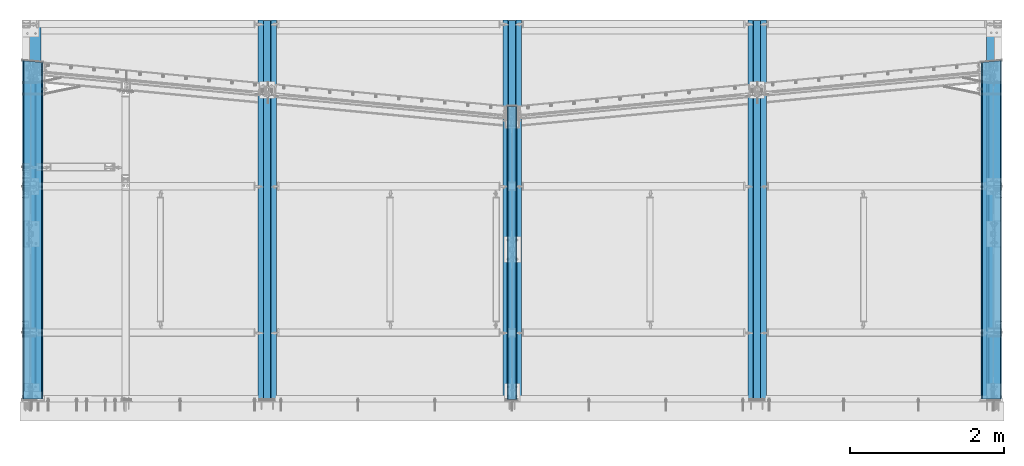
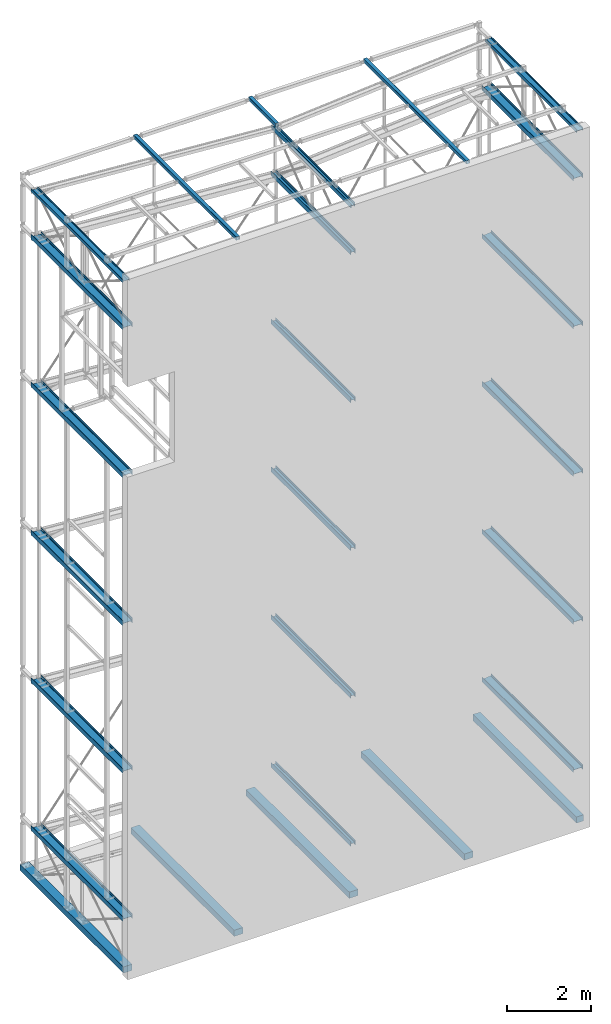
# One storey, part 1 of 271: 26 columns, 25 elements without a shape of their own.
"""IFC2X3 building model written with IfcOpenShell, lengths in millimetres."""

import ifcopenshell
import ifcopenshell.guid

model = None  # the IFC model being written
_history = None  # IfcOwnerHistory: only IFC2X3 demands one
_inside = {}  # id of a spatial element -> (the spatial element, [elements in it])
_under = {}  # id of a project, library or spatial element -> (it, [spatial elements below it])
_declared = {}  # id of a project -> (the project, [libraries it declares])
_typed = {}  # id of a type object -> (the type object, [elements of that type])
_made_of = {}  # id of a material, layer set ... -> (it, [elements and type objects made of it])


def new_model(schema):
    """Start an empty IFC model of exactly this schema.

    Asked for "IFC4X3", IfcOpenShell would pick the latest addendum, in which some entities
    have other attributes; the version numbers below select the first issue.
    IFC2X3 requires an IfcOwnerHistory on every rooted entity: one is made here for all.
    """
    global model, _history
    if schema == "IFC4X3":
        model = ifcopenshell.file(schema_version=(4, 3, 0, 0))
    else:
        model = ifcopenshell.file(schema=schema)
    _inside.clear()
    _under.clear()
    _declared.clear()
    _typed.clear()
    _made_of.clear()
    _history = None
    if model.schema == "IFC2X3":
        org = make("IfcOrganization", Name="unknown")
        user = make(
            "IfcPersonAndOrganization",
            ThePerson=make("IfcPerson", FamilyName="unknown"),
            TheOrganization=org,
        )
        app = make(
            "IfcApplication",
            ApplicationDeveloper=org,
            Version="unknown",
            ApplicationFullName="unknown",
            ApplicationIdentifier="unknown",
        )
        _history = make(
            "IfcOwnerHistory",
            OwningUser=user,
            OwningApplication=app,
            ChangeAction="ADDED",
            CreationDate=0,
        )
    return model


def make(cls, **values):
    """One entity of the class cls with the attributes given. An attribute that is None is left unset."""
    return model.create_entity(
        cls, **{name: value for name, value in values.items() if value is not None}
    )


def rooted(cls, **values):
    """An entity with a GlobalId (a new one), such as an element, a storey or a relation."""
    return make(cls, GlobalId=ifcopenshell.guid.new(), OwnerHistory=_history, **values)


def si_unit(unit_type, name, prefix=None):
    """IfcSIUnit, for example si_unit("LENGTHUNIT", "METRE", prefix="MILLI")."""
    return make("IfcSIUnit", UnitType=unit_type, Prefix=prefix, Name=name)


def assignment(units):
    """IfcUnitAssignment: the units of a project."""
    return None if units is None else make("IfcUnitAssignment", Units=units)


def point(xyz):
    """IfcCartesianPoint."""
    return None if xyz is None else make("IfcCartesianPoint", Coordinates=xyz)


def direction(xyz):
    """IfcDirection."""
    return None if xyz is None else make("IfcDirection", DirectionRatios=xyz)


def frame(location, z_axis=None, x_axis=None):
    """IfcAxis2Placement3D, a coordinate frame: its origin and axes. An axis left out is left unset."""
    return make(
        "IfcAxis2Placement3D",
        Location=point(location),
        Axis=direction(z_axis),
        RefDirection=direction(x_axis),
    )


def frame_2d(location, x_axis=None):
    """IfcAxis2Placement2D, a coordinate frame in the plane: its origin and x axis."""
    return make(
        "IfcAxis2Placement2D", Location=point(location), RefDirection=direction(x_axis)
    )


def origin_with_axes():
    """The frame at (0, 0, 0) with the z axis (0, 0, 1) and the x axis (1, 0, 0) written out."""
    return frame((0.0, 0.0, 0.0), z_axis=(0.0, 0.0, 1.0), x_axis=(1.0, 0.0, 0.0))


def origin_2d_with_axis():
    """The frame at (0, 0) in the plane with the x axis (1, 0) written out."""
    return frame_2d((0.0, 0.0), x_axis=(1.0, 0.0))


def place(relative_to, where):
    """IfcLocalPlacement: puts the frame where relative to a parent placement (None: the world)."""
    return make(
        "IfcLocalPlacement", PlacementRelTo=relative_to, RelativePlacement=where
    )


def context(
    kind, dimensions, precision=None, world=None, true_north=None, identifier=None
):
    """IfcGeometricRepresentationContext, for example the 3D "Model" context."""
    return make(
        "IfcGeometricRepresentationContext",
        ContextIdentifier=identifier,
        ContextType=kind,
        CoordinateSpaceDimension=dimensions,
        Precision=precision,
        WorldCoordinateSystem=world,
        TrueNorth=true_north,
    )


def subcontext(parent, identifier, kind, view, scale=None):
    """IfcGeometricRepresentationSubContext, for example "Body" below "Model"."""
    return make(
        "IfcGeometricRepresentationSubContext",
        ContextIdentifier=identifier,
        ContextType=kind,
        ParentContext=parent,
        TargetScale=scale,
        TargetView=view,
    )


def project(units=None, contexts=None):
    """IfcProject with its units and contexts."""
    return rooted(
        "IfcProject",
        Name="project",
        RepresentationContexts=contexts,
        UnitsInContext=assignment(units),
    )


def spatial(cls, under=None, at=None, **own):
    """A site, building, storey or space (cls), placed at a placement, below another one or the project."""
    s = rooted(cls, ObjectPlacement=at, **own)
    if under is not None:
        _under.setdefault(under.id(), (under, []))[1].append(s)
    return s


def profile(cls, at=None, kind="AREA", **sizes):
    """A parametric profile (cls). Its sizes go by their IFC names, for example OverallWidth=200.0."""
    return make(cls, ProfileType=kind, Position=at, **sizes)


def rectangle(**sizes):
    """IfcRectangleProfileDef."""
    return profile("IfcRectangleProfileDef", **sizes)


def hollow_rectangle(**sizes):
    """IfcRectangleHollowProfileDef."""
    return profile("IfcRectangleHollowProfileDef", **sizes)


def i_section(**sizes):
    """IfcIShapeProfileDef."""
    return profile("IfcIShapeProfileDef", **sizes)


def extrude(swept, where, along, depth):
    """IfcExtrudedAreaSolid: the profile swept, set in the frame where, extruded along a direction by depth."""
    return make(
        "IfcExtrudedAreaSolid",
        SweptArea=swept,
        Position=where,
        ExtrudedDirection=direction(along),
        Depth=depth,
    )


def clip(a, b, op="DIFFERENCE"):
    """IfcBooleanClippingResult: the solid a cut by the half space b."""
    return make(
        "IfcBooleanClippingResult", Operator=op, FirstOperand=a, SecondOperand=b
    )


def halfspace(plane, agree):
    """IfcHalfSpaceSolid: all space on one side of the plane z = 0 of the frame plane."""
    return make(
        "IfcHalfSpaceSolid",
        BaseSurface=make("IfcPlane", Position=plane),
        AgreementFlag=agree,
    )


def shape(context_of_items, identifier, shape_type, items):
    """IfcShapeRepresentation: the items that make up one representation, for example the "Body"."""
    return make(
        "IfcShapeRepresentation",
        ContextOfItems=context_of_items,
        RepresentationIdentifier=identifier,
        RepresentationType=shape_type,
        Items=items,
    )


def material(Name=None, Category=None):
    """IfcMaterial."""
    return make("IfcMaterial", Name=Name, Category=Category)


def made_of(thing, what):
    """Note that an element or type object is made of a material, layer set ...; save() writes the relation."""
    if what is not None:
        _made_of.setdefault(what.id(), (what, []))[1].append(thing)
    return thing


def type_object(cls, material=None, **own):
    """A type object (cls), such as IfcWallType, which elements share."""
    return made_of(rooted(cls, **own), material)


def element(
    cls,
    number,
    at=None,
    inside=None,
    cuts=None,
    type_object=None,
    material=None,
    context=None,
    identifier="Body",
    shape_type=None,
    held_by="IfcProductDefinitionShape",
    body=None,
    shapes=None,
    **own,
):
    """One element of the class cls, such as IfcWall. Its Tag is "e" and its number.

    at: its placement. inside: the storey or other place that contains it. cuts: it is an
    opening in that element (IfcRelVoidsElement). A single representation is given by context,
    identifier, shape_type and body (its items); several are given by shapes. held_by: the class
    of the entity that holds the representations. save() writes the other relations.
    """
    e = rooted(cls, Tag="e%d" % number, ObjectPlacement=at, **own)
    if body is not None:
        shapes = [shape(context, identifier, shape_type, body)]
    if shapes is not None:
        e.Representation = make(held_by, Representations=shapes)
    if inside is not None:
        _inside.setdefault(inside.id(), (inside, []))[1].append(e)
    if cuts is not None:
        rooted(
            "IfcRelVoidsElement", RelatingBuildingElement=cuts, RelatedOpeningElement=e
        )
    if type_object is not None:
        _typed.setdefault(type_object.id(), (type_object, []))[1].append(e)
    return made_of(e, material)


def aggregate(whole, parts):
    """IfcRelAggregates: a whole, such as a stair, and the parts it consists of."""
    return rooted("IfcRelAggregates", RelatingObject=whole, RelatedObjects=parts)


def save(model, path):
    """Write the relations noted so far, then the file.

    IfcRelAggregates (storeys below a building ...), IfcRelContainedInSpatialStructure (elements
    in a storey), IfcRelDefinesByType, IfcRelAssociatesMaterial and IfcRelDeclares: one each for
    every whole, place, type object, material and project.
    """
    for whole, parts in _under.values():
        aggregate(whole, parts)
    for where, things in _inside.values():
        rooted(
            "IfcRelContainedInSpatialStructure",
            RelatedElements=things,
            RelatingStructure=where,
        )
    for kind, things in _typed.values():
        rooted("IfcRelDefinesByType", RelatedObjects=things, RelatingType=kind)
    for what, things in _made_of.values():
        rooted("IfcRelAssociatesMaterial", RelatedObjects=things, RelatingMaterial=what)
    for by, libraries in _declared.values():
        rooted("IfcRelDeclares", RelatingContext=by, RelatedDefinitions=libraries)
    model.write(path)


model = new_model("IFC2X3")

# Units and contexts
model_context = context("Model", 3, precision=1e-05, world=origin_with_axes())
body_context = subcontext(model_context, "Body", "Model", "MODEL_VIEW")
ifc_project = project(units=[si_unit("LENGTHUNIT", "METRE", prefix="MILLI"), si_unit("AREAUNIT", "SQUARE_METRE"), si_unit("VOLUMEUNIT", "CUBIC_METRE"), si_unit("MASSUNIT", "GRAM", prefix="KILO"), si_unit("TIMEUNIT", "SECOND"), si_unit("PLANEANGLEUNIT", "RADIAN"), si_unit("SOLIDANGLEUNIT", "STERADIAN"), si_unit("THERMODYNAMICTEMPERATUREUNIT", "DEGREE_CELSIUS"), si_unit("LUMINOUSINTENSITYUNIT", "LUMEN")], contexts=[model_context])

# Site, building, storey
site_placement = place(None, origin_with_axes())
site = spatial("IfcSite", under=ifc_project, at=site_placement, Name="Undefined", CompositionType="ELEMENT")
building_placement = place(site_placement, origin_with_axes())
building = spatial("IfcBuilding", under=site, at=building_placement, Name="Undefined", CompositionType="ELEMENT")
storey_placement = place(building_placement, origin_with_axes())
storey = spatial("IfcBuildingStorey", under=building, at=storey_placement, Name="Undefined", CompositionType="ELEMENT", Elevation=0.0)

# Assembly, column
assembly_1_placement = place(storey_placement, origin_with_axes())
assembly_1 = element("IfcElementAssembly", 1, at=assembly_1_placement, inside=storey, AssemblyPlace="NOTDEFINED", PredefinedType="REINFORCEMENT_UNIT")
ifc_material_1 = material(Name="CONCRETE/C25/30")
column_type_1 = type_object("IfcColumnType", Name="180*200", PredefinedType="NOTDEFINED")
column_1_placement = place(assembly_1_placement, frame((12608.3756870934, 9.32498425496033, -105.650000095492), z_axis=(0.0, 1.0, 0.0), x_axis=(0.0, 0.0, 1.0)))
column_1 = element("IfcColumn", 2, at=column_1_placement, type_object=column_type_1, material=ifc_material_1, Name="SŁUP", ObjectType="180*200", context=body_context, shape_type="SweptSolid", body=[
    extrude(rectangle(XDim=200.0, YDim=180.0, at=origin_2d_with_axis()), frame((0.0, 0.0, 4950.0), z_axis=(0.0, 0.0, -1.0), x_axis=(0.0, 1.0, 0.0)), (0.0, 0.0, 1.0), 4950.0),
])
aggregate(assembly_1, [column_1])

assembly_2_placement = place(storey_placement, origin_with_axes())
assembly_2 = element("IfcElementAssembly", 3, at=assembly_2_placement, inside=storey, AssemblyPlace="NOTDEFINED", PredefinedType="REINFORCEMENT_UNIT")
column_type_2 = type_object("IfcColumnType", Name="180*240", PredefinedType="NOTDEFINED")
column_2_placement = place(assembly_2_placement, frame((108.375687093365, 9.32498425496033, -105.650000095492), z_axis=(0.0, 1.0, 0.0), x_axis=(0.0, 0.0, 1.0)))
column_2 = element("IfcColumn", 4, at=column_2_placement, type_object=column_type_2, material=ifc_material_1, Name="SŁUP", ObjectType="180*240", context=body_context, shape_type="SweptSolid", body=[
    extrude(rectangle(XDim=240.0, YDim=180.0, at=origin_2d_with_axis()), frame((0.0, 0.0, 4950.0), z_axis=(0.0, 0.0, -1.0), x_axis=(0.0, 1.0, 0.0)), (0.0, 0.0, 1.0), 4950.0),
])
aggregate(assembly_2, [column_2])

assembly_3_placement = place(storey_placement, origin_with_axes())
assembly_3 = element("IfcElementAssembly", 5, at=assembly_3_placement, inside=storey, AssemblyPlace="NOTDEFINED", PredefinedType="REINFORCEMENT_UNIT")
column_3_placement = place(assembly_3_placement, frame((3171.37568709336, 9.32498425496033, -105.650000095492), z_axis=(0.0, 1.0, 0.0), x_axis=(0.0, 0.0, 1.0)))
column_3 = element("IfcColumn", 6, at=column_3_placement, type_object=column_type_2, material=ifc_material_1, Name="SŁUP", ObjectType="180*240", context=body_context, shape_type="SweptSolid", body=[
    extrude(rectangle(XDim=240.0, YDim=180.0, at=origin_2d_with_axis()), frame((0.0, 0.0, 4950.0), z_axis=(0.0, 0.0, -1.0), x_axis=(0.0, 1.0, 0.0)), (0.0, 0.0, 1.0), 4950.0),
])
aggregate(assembly_3, [column_3])

assembly_4_placement = place(storey_placement, origin_with_axes())
assembly_4 = element("IfcElementAssembly", 7, at=assembly_4_placement, inside=storey, AssemblyPlace="NOTDEFINED", PredefinedType="REINFORCEMENT_UNIT")
column_4_placement = place(assembly_4_placement, frame((6351.37568709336, 9.32498425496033, -105.650000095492), z_axis=(0.0, 1.0, 0.0), x_axis=(0.0, 0.0, 1.0)))
column_4 = element("IfcColumn", 8, at=column_4_placement, type_object=column_type_2, material=ifc_material_1, Name="SŁUP", ObjectType="180*240", context=body_context, shape_type="SweptSolid", body=[
    extrude(rectangle(XDim=240.0, YDim=180.0, at=origin_2d_with_axis()), frame((0.0, 0.0, 4950.0), z_axis=(0.0, 0.0, -1.0), x_axis=(0.0, 1.0, 0.0)), (0.0, 0.0, 1.0), 4950.0),
])
aggregate(assembly_4, [column_4])

assembly_5_placement = place(storey_placement, origin_with_axes())
assembly_5 = element("IfcElementAssembly", 9, at=assembly_5_placement, inside=storey, AssemblyPlace="NOTDEFINED", PredefinedType="REINFORCEMENT_UNIT")
column_5_placement = place(assembly_5_placement, frame((9531.37568709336, 9.32498425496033, -105.650000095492), z_axis=(0.0, 1.0, 0.0), x_axis=(0.0, 0.0, 1.0)))
column_5 = element("IfcColumn", 10, at=column_5_placement, type_object=column_type_2, material=ifc_material_1, Name="SŁUP", ObjectType="180*240", context=body_context, shape_type="SweptSolid", body=[
    extrude(rectangle(XDim=240.0, YDim=180.0, at=origin_2d_with_axis()), frame((0.0, 0.0, 4950.0), z_axis=(0.0, 0.0, -1.0), x_axis=(0.0, 1.0, 0.0)), (0.0, 0.0, 1.0), 4950.0),
])
aggregate(assembly_5, [column_5])

assembly_6_placement = place(storey_placement, origin_with_axes())
assembly_6 = element("IfcElementAssembly", 11, at=assembly_6_placement, inside=storey, AssemblyPlace="NOTDEFINED", PredefinedType="RIGID_FRAME")
ifc_material_2 = material(Name="STEEL/S355JR")
column_type_3 = type_object("IfcColumnType", Name="SHS100*3", PredefinedType="NOTDEFINED")
column_6_placement = place(assembly_6_placement, frame((6348.37568736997, 3665.32498425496, 20154.3499999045), z_axis=(0.0, 1.0, 0.0), x_axis=(1.0, 0.0, 0.0)))
column_6 = element("IfcColumn", 12, at=column_6_placement, type_object=column_type_3, material=ifc_material_2, Name="SŁUPEK", ObjectType="SHS100*3", context=body_context, shape_type="Clipping", body=[
    clip(extrude(hollow_rectangle(XDim=100.0, YDim=100.0, WallThickness=3.0, InnerFilletRadius=3.0, OuterFilletRadius=6.0, at=origin_2d_with_axis()), frame((0.0, 0.0, 1294.0), z_axis=(0.0, 0.0, -1.0), x_axis=(0.0, 1.0, 0.0)), (0.0, 0.0, 1.0), 1294.0), halfspace(frame((-50.0000000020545, 0.0, 1290.0), z_axis=(0.0, 0.0, -1.0), x_axis=(0.0, -1.0, 0.0)), True)),
])

assembly_7_placement = place(storey_placement, origin_with_axes())
assembly_7 = element("IfcElementAssembly", 13, at=assembly_7_placement, inside=storey, AssemblyPlace="NOTDEFINED", PredefinedType="RIGID_FRAME")
column_7_placement = place(assembly_7_placement, frame((9528.37568709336, -0.675015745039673, 20154.3499999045), z_axis=(0.0, 1.0, 0.0), x_axis=(1.0, 0.0, 0.0)))
column_7 = element("IfcColumn", 14, at=column_7_placement, type_object=column_type_3, material=ifc_material_2, Name="SŁUP", ObjectType="SHS100*3", context=body_context, shape_type="Clipping", body=[
    clip(clip(extrude(hollow_rectangle(XDim=100.0, YDim=100.0, WallThickness=3.0, InnerFilletRadius=3.0, OuterFilletRadius=6.0, at=origin_2d_with_axis()), frame((0.0, 0.0, 4960.0), z_axis=(0.0, 0.0, -1.0), x_axis=(0.0, 1.0, 0.0)), (0.0, 0.0, 1.0), 4960.0), halfspace(frame((-50.0, 0.0, 4956.0), z_axis=(0.0, 0.0, -1.0), x_axis=(0.0, -1.0, 0.0)), True)), halfspace(frame((50.0, 0.0, 32.0), z_axis=(0.0, 0.0, 1.0), x_axis=(0.0, -1.0, 0.0)), True)),
])
aggregate(assembly_7, [column_7])

assembly_8_placement = place(storey_placement, origin_with_axes())
assembly_8 = element("IfcElementAssembly", 15, at=assembly_8_placement, inside=storey, AssemblyPlace="NOTDEFINED", PredefinedType="RIGID_FRAME")
column_8_placement = place(assembly_8_placement, frame((3168.37568709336, -0.675015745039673, 20154.3499999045), z_axis=(0.0, 1.0, 0.0), x_axis=(1.0, 0.0, 0.0)))
column_8 = element("IfcColumn", 16, at=column_8_placement, type_object=column_type_3, material=ifc_material_2, Name="SŁUP", ObjectType="SHS100*3", context=body_context, shape_type="Clipping", body=[
    clip(clip(extrude(hollow_rectangle(XDim=100.0, YDim=100.0, WallThickness=3.0, InnerFilletRadius=3.0, OuterFilletRadius=6.0, at=origin_2d_with_axis()), frame((0.0, 0.0, 4960.0), z_axis=(0.0, 0.0, -1.0), x_axis=(0.0, 1.0, 0.0)), (0.0, 0.0, 1.0), 4960.0), halfspace(frame((-50.0, 0.0, 4956.0), z_axis=(0.0, 0.0, -1.0), x_axis=(0.0, -1.0, 0.0)), True)), halfspace(frame((50.0, 0.0, 32.0), z_axis=(0.0, 0.0, 1.0), x_axis=(0.0, -1.0, 0.0)), True)),
])
aggregate(assembly_8, [column_8])

# Column
column_type_4 = type_object("IfcColumnType", Name="HEA120", PredefinedType="NOTDEFINED")
column_9_placement = place(assembly_6_placement, frame((6348.37568709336, -0.675015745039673, 20004.3499999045), z_axis=(0.0, 1.0, 0.0), x_axis=(1.0, 0.0, 0.0)))
column_9 = element("IfcColumn", 17, at=column_9_placement, type_object=column_type_4, material=ifc_material_2, Name="SŁUP", ObjectType="HEA120", context=body_context, shape_type="Clipping", body=[
    clip(clip(extrude(i_section(OverallWidth=120.0, OverallDepth=114.0, WebThickness=5.0, FlangeThickness=8.0, FilletRadius=12.0, at=origin_2d_with_axis()), frame((0.0, 0.0, 3850.0), z_axis=(0.0, 0.0, -1.0), x_axis=(0.0, 1.0, 0.0)), (0.0, 0.0, 1.0), 3850.0), halfspace(frame((57.0, 0.0, 3840.57618987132), z_axis=(0.0, 0.0, -1.0), x_axis=(0.0, 1.0, 0.0)), True)), halfspace(frame((-57.0, 0.0, 32.0), z_axis=(0.0, 0.0, 1.0), x_axis=(0.0, 1.0, 0.0)), True)),
])

aggregate(assembly_6, [column_6, column_9])

# Assembly, column
assembly_9_placement = place(storey_placement, origin_with_axes())
assembly_9 = element("IfcElementAssembly", 18, at=assembly_9_placement, inside=storey, AssemblyPlace="NOTDEFINED", PredefinedType="RIGID_FRAME")
column_type_5 = type_object("IfcColumnType", Name="IPE180", PredefinedType="NOTDEFINED")
column_10_placement = place(assembly_9_placement, frame((78.3756870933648, -0.675015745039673, 20004.3499999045), z_axis=(0.0, 1.0, 0.0), x_axis=(1.0, 0.0, 0.0)))
column_10 = element("IfcColumn", 19, at=column_10_placement, type_object=column_type_5, material=ifc_material_2, Name="SŁUP", ObjectType="IPE180", context=body_context, shape_type="Clipping", body=[
    clip(clip(extrude(i_section(OverallWidth=91.0, OverallDepth=180.0, WebThickness=5.300000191, FlangeThickness=8.0, FilletRadius=9.0, at=origin_2d_with_axis()), frame((0.0, 0.0, 4450.0), z_axis=(0.0, 0.0, -1.0), x_axis=(0.0, 1.0, 0.0)), (0.0, 0.0, 1.0), 4450.0), halfspace(frame((-89.9999999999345, 0.0, 4435.17219302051), z_axis=(-0.0939225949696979, 0.0, -0.995579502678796), x_axis=(0.0, -1.0, 0.0)), True)), halfspace(frame((-90.0, 0.0, 32.0), z_axis=(0.0, 0.0, 1.0), x_axis=(0.0, 1.0, 0.0)), True)),
])
aggregate(assembly_9, [column_10])

assembly_10_placement = place(storey_placement, origin_with_axes())
assembly_10 = element("IfcElementAssembly", 20, at=assembly_10_placement, inside=storey, AssemblyPlace="NOTDEFINED", PredefinedType="RIGID_FRAME")
column_11_placement = place(assembly_10_placement, frame((12618.3756870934, -0.675015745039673, 20004.3499999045), z_axis=(0.0, 1.0, 0.0), x_axis=(1.0, 0.0, 0.0)))
column_11 = element("IfcColumn", 21, at=column_11_placement, type_object=column_type_5, material=ifc_material_2, Name="SŁUP", ObjectType="IPE180", context=body_context, shape_type="Clipping", body=[
    clip(clip(extrude(i_section(OverallWidth=91.0, OverallDepth=180.0, WebThickness=5.300000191, FlangeThickness=8.0, FilletRadius=9.0, at=origin_2d_with_axis()), frame((0.0, 0.0, 4450.0), z_axis=(0.0, 0.0, -1.0), x_axis=(0.0, 1.0, 0.0)), (0.0, 0.0, 1.0), 4450.0), halfspace(frame((90.0, 0.0, 4435.17219296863), z_axis=(0.0939225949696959, 0.0, -0.995579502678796), x_axis=(0.0, 1.0, 0.0)), True)), halfspace(frame((-90.0, 0.0, 32.0), z_axis=(0.0, 0.0, 1.0), x_axis=(0.0, 1.0, 0.0)), True)),
])
aggregate(assembly_10, [column_11])

assembly_11_placement = place(storey_placement, origin_with_axes())
assembly_11 = element("IfcElementAssembly", 22, at=assembly_11_placement, inside=storey, AssemblyPlace="NOTDEFINED", PredefinedType="RIGID_FRAME")
column_type_6 = type_object("IfcColumnType", Name="HEA140", PredefinedType="NOTDEFINED")
column_12_placement = place(assembly_11_placement, frame((6348.37568709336, -0.675015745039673, 1364.34999990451), z_axis=(0.0, 1.0, 0.0), x_axis=(1.0, 0.0, 0.0)))
column_12 = element("IfcColumn", 23, at=column_12_placement, type_object=column_type_6, material=ifc_material_2, Name="SŁUP", ObjectType="HEA140", context=body_context, shape_type="Clipping", body=[
    clip(clip(extrude(i_section(OverallWidth=140.0, OverallDepth=133.0, WebThickness=5.5, FlangeThickness=8.5, FilletRadius=12.0, at=origin_2d_with_axis()), frame((0.0, 0.0, 3850.0), z_axis=(0.0, 0.0, -1.0), x_axis=(0.0, 1.0, 0.0)), (0.0, 0.0, 1.0), 3850.0), halfspace(frame((66.5, 0.0, 3839.47241629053), z_axis=(0.0, 0.0, -1.0), x_axis=(0.0, 1.0, 0.0)), True)), halfspace(frame((-66.5, 0.0, 32.0), z_axis=(0.0, 0.0, 1.0), x_axis=(0.0, 1.0, 0.0)), True)),
])
aggregate(assembly_11, [column_12])

assembly_12_placement = place(storey_placement, origin_with_axes())
assembly_12 = element("IfcElementAssembly", 24, at=assembly_12_placement, inside=storey, AssemblyPlace="NOTDEFINED", PredefinedType="RIGID_FRAME")
column_13_placement = place(assembly_12_placement, frame((6348.37568709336, -0.675015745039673, 5684.34999990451), z_axis=(0.0, 1.0, 0.0), x_axis=(1.0, 0.0, 0.0)))
column_13 = element("IfcColumn", 25, at=column_13_placement, type_object=column_type_6, material=ifc_material_2, Name="SŁUP", ObjectType="HEA140", context=body_context, shape_type="Clipping", body=[
    clip(clip(extrude(i_section(OverallWidth=140.0, OverallDepth=133.0, WebThickness=5.5, FlangeThickness=8.5, FilletRadius=12.0, at=origin_2d_with_axis()), frame((0.0, 0.0, 3850.0), z_axis=(0.0, 0.0, -1.0), x_axis=(0.0, 1.0, 0.0)), (0.0, 0.0, 1.0), 3850.0), halfspace(frame((66.5, 0.0, 3839.47241629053), z_axis=(0.0, 0.0, -1.0), x_axis=(0.0, 1.0, 0.0)), True)), halfspace(frame((-66.5, 0.0, 32.0), z_axis=(0.0, 0.0, 1.0), x_axis=(0.0, 1.0, 0.0)), True)),
])
aggregate(assembly_12, [column_13])

assembly_13_placement = place(storey_placement, origin_with_axes())
assembly_13 = element("IfcElementAssembly", 26, at=assembly_13_placement, inside=storey, AssemblyPlace="NOTDEFINED", PredefinedType="RIGID_FRAME")
column_14_placement = place(assembly_13_placement, frame((6348.37568709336, -0.675015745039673, 10004.3499999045), z_axis=(0.0, 1.0, 0.0), x_axis=(1.0, 0.0, 0.0)))
column_14 = element("IfcColumn", 27, at=column_14_placement, type_object=column_type_6, material=ifc_material_2, Name="SŁUP", ObjectType="HEA140", context=body_context, shape_type="Clipping", body=[
    clip(clip(extrude(i_section(OverallWidth=140.0, OverallDepth=133.0, WebThickness=5.5, FlangeThickness=8.5, FilletRadius=12.0, at=origin_2d_with_axis()), frame((0.0, 0.0, 3850.0), z_axis=(0.0, 0.0, -1.0), x_axis=(0.0, 1.0, 0.0)), (0.0, 0.0, 1.0), 3850.0), halfspace(frame((66.5, 0.0, 3839.47241629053), z_axis=(0.0, 0.0, -1.0), x_axis=(0.0, 1.0, 0.0)), True)), halfspace(frame((-66.5, 0.0, 32.0), z_axis=(0.0, 0.0, 1.0), x_axis=(0.0, 1.0, 0.0)), True)),
])
aggregate(assembly_13, [column_14])

assembly_14_placement = place(storey_placement, origin_with_axes())
assembly_14 = element("IfcElementAssembly", 28, at=assembly_14_placement, inside=storey, AssemblyPlace="NOTDEFINED", PredefinedType="RIGID_FRAME")
column_15_placement = place(assembly_14_placement, frame((6348.37568709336, -0.675015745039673, 14324.3499999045), z_axis=(0.0, 1.0, 0.0), x_axis=(1.0, 0.0, 0.0)))
column_15 = element("IfcColumn", 29, at=column_15_placement, type_object=column_type_6, material=ifc_material_2, Name="SŁUP", ObjectType="HEA140", context=body_context, shape_type="Clipping", body=[
    clip(clip(extrude(i_section(OverallWidth=140.0, OverallDepth=133.0, WebThickness=5.5, FlangeThickness=8.5, FilletRadius=12.0, at=origin_2d_with_axis()), frame((0.0, 0.0, 3850.0), z_axis=(0.0, 0.0, -1.0), x_axis=(0.0, 1.0, 0.0)), (0.0, 0.0, 1.0), 3850.0), halfspace(frame((66.5, 0.0, 3839.47241629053), z_axis=(0.0, 0.0, -1.0), x_axis=(0.0, 1.0, 0.0)), True)), halfspace(frame((-66.5, 0.0, 32.0), z_axis=(0.0, 0.0, 1.0), x_axis=(0.0, 1.0, 0.0)), True)),
])
aggregate(assembly_14, [column_15])

assembly_15_placement = place(storey_placement, origin_with_axes())
assembly_15 = element("IfcElementAssembly", 30, at=assembly_15_placement, inside=storey, AssemblyPlace="NOTDEFINED", PredefinedType="RIGID_FRAME")
column_16_placement = place(assembly_15_placement, frame((6348.37568709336, -0.675015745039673, 18644.3499999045), z_axis=(0.0, 1.0, 0.0), x_axis=(1.0, 0.0, 0.0)))
column_16 = element("IfcColumn", 31, at=column_16_placement, type_object=column_type_6, material=ifc_material_2, Name="SŁUP", ObjectType="HEA140", context=body_context, shape_type="Clipping", body=[
    clip(clip(extrude(i_section(OverallWidth=140.0, OverallDepth=133.0, WebThickness=5.5, FlangeThickness=8.5, FilletRadius=12.0, at=origin_2d_with_axis()), frame((0.0, 0.0, 3850.0), z_axis=(0.0, 0.0, -1.0), x_axis=(0.0, 1.0, 0.0)), (0.0, 0.0, 1.0), 3850.0), halfspace(frame((66.5, 0.0, 3839.47241629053), z_axis=(0.0, 0.0, -1.0), x_axis=(0.0, 1.0, 0.0)), True)), halfspace(frame((-66.5, 0.0, 32.0), z_axis=(0.0, 0.0, 1.0), x_axis=(0.0, 1.0, 0.0)), True)),
])
aggregate(assembly_15, [column_16])

assembly_16_placement = place(storey_placement, origin_with_axes())
assembly_16 = element("IfcElementAssembly", 32, at=assembly_16_placement, inside=storey, AssemblyPlace="NOTDEFINED", PredefinedType="RIGID_FRAME")
column_type_7 = type_object("IfcColumnType", Name="IPE270", PredefinedType="NOTDEFINED")
column_17_placement = place(assembly_16_placement, frame((12573.3756870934, -0.675015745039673, 1364.34999990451), z_axis=(0.0, 1.0, 0.0), x_axis=(1.0, 0.0, 0.0)))
column_17 = element("IfcColumn", 33, at=column_17_placement, type_object=column_type_7, material=ifc_material_2, Name="SŁUP", ObjectType="IPE270", context=body_context, shape_type="Clipping", body=[
    clip(clip(extrude(i_section(OverallWidth=135.0, OverallDepth=270.0, WebThickness=6.599999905, FlangeThickness=10.19999981, FilletRadius=15.0, at=origin_2d_with_axis()), frame((0.0, 0.0, 4450.0), z_axis=(0.0, 0.0, -1.0), x_axis=(0.0, 1.0, 0.0)), (0.0, 0.0, 1.0), 4450.0), halfspace(frame((135.0, 0.0, 4433.16331271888), z_axis=(0.0939225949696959, 0.0, -0.995579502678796), x_axis=(0.0, 1.0, 0.0)), True)), halfspace(frame((-135.0, 0.0, 36.0), z_axis=(0.0, 0.0, 1.0), x_axis=(0.0, 1.0, 0.0)), True)),
])
aggregate(assembly_16, [column_17])

assembly_17_placement = place(storey_placement, origin_with_axes())
assembly_17 = element("IfcElementAssembly", 34, at=assembly_17_placement, inside=storey, AssemblyPlace="NOTDEFINED", PredefinedType="RIGID_FRAME")
column_18_placement = place(assembly_17_placement, frame((12573.3756870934, -0.675015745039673, 5684.34999990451), z_axis=(0.0, 1.0, 0.0), x_axis=(1.0, 0.0, 0.0)))
column_18 = element("IfcColumn", 35, at=column_18_placement, type_object=column_type_7, material=ifc_material_2, Name="SŁUP", ObjectType="IPE270", context=body_context, shape_type="Clipping", body=[
    clip(clip(extrude(i_section(OverallWidth=135.0, OverallDepth=270.0, WebThickness=6.599999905, FlangeThickness=10.19999981, FilletRadius=15.0, at=origin_2d_with_axis()), frame((0.0, 0.0, 4450.0), z_axis=(0.0, 0.0, -1.0), x_axis=(0.0, 1.0, 0.0)), (0.0, 0.0, 1.0), 4450.0), halfspace(frame((135.0, 0.0, 4433.16331271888), z_axis=(0.0939225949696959, 0.0, -0.995579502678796), x_axis=(0.0, 1.0, 0.0)), True)), halfspace(frame((-135.0, 0.0, 36.0), z_axis=(0.0, 0.0, 1.0), x_axis=(0.0, 1.0, 0.0)), True)),
])
aggregate(assembly_17, [column_18])

assembly_18_placement = place(storey_placement, origin_with_axes())
assembly_18 = element("IfcElementAssembly", 36, at=assembly_18_placement, inside=storey, AssemblyPlace="NOTDEFINED", PredefinedType="RIGID_FRAME")
column_19_placement = place(assembly_18_placement, frame((12573.3756870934, -0.675015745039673, 10004.3499999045), z_axis=(0.0, 1.0, 0.0), x_axis=(1.0, 0.0, 0.0)))
column_19 = element("IfcColumn", 37, at=column_19_placement, type_object=column_type_7, material=ifc_material_2, Name="SŁUP", ObjectType="IPE270", context=body_context, shape_type="Clipping", body=[
    clip(clip(extrude(i_section(OverallWidth=135.0, OverallDepth=270.0, WebThickness=6.599999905, FlangeThickness=10.19999981, FilletRadius=15.0, at=origin_2d_with_axis()), frame((0.0, 0.0, 4450.0), z_axis=(0.0, 0.0, -1.0), x_axis=(0.0, 1.0, 0.0)), (0.0, 0.0, 1.0), 4450.0), halfspace(frame((135.0, 0.0, 4433.16331271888), z_axis=(0.0939225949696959, 0.0, -0.995579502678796), x_axis=(0.0, 1.0, 0.0)), True)), halfspace(frame((-135.0, 0.0, 36.0), z_axis=(0.0, 0.0, 1.0), x_axis=(0.0, 1.0, 0.0)), True)),
])
aggregate(assembly_18, [column_19])

assembly_19_placement = place(storey_placement, origin_with_axes())
assembly_19 = element("IfcElementAssembly", 38, at=assembly_19_placement, inside=storey, AssemblyPlace="NOTDEFINED", PredefinedType="RIGID_FRAME")
column_20_placement = place(assembly_19_placement, frame((12573.3756870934, -0.675015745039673, 14324.3499999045), z_axis=(0.0, 1.0, 0.0), x_axis=(1.0, 0.0, 0.0)))
column_20 = element("IfcColumn", 39, at=column_20_placement, type_object=column_type_7, material=ifc_material_2, Name="SŁUP", ObjectType="IPE270", context=body_context, shape_type="Clipping", body=[
    clip(clip(extrude(i_section(OverallWidth=135.0, OverallDepth=270.0, WebThickness=6.599999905, FlangeThickness=10.19999981, FilletRadius=15.0, at=origin_2d_with_axis()), frame((0.0, 0.0, 4450.0), z_axis=(0.0, 0.0, -1.0), x_axis=(0.0, 1.0, 0.0)), (0.0, 0.0, 1.0), 4450.0), halfspace(frame((135.0, 0.0, 4433.16331271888), z_axis=(0.0939225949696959, 0.0, -0.995579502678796), x_axis=(0.0, 1.0, 0.0)), True)), halfspace(frame((-135.0, 0.0, 36.0), z_axis=(0.0, 0.0, 1.0), x_axis=(0.0, 1.0, 0.0)), True)),
])
aggregate(assembly_19, [column_20])

assembly_20_placement = place(storey_placement, origin_with_axes())
assembly_20 = element("IfcElementAssembly", 40, at=assembly_20_placement, inside=storey, AssemblyPlace="NOTDEFINED", PredefinedType="RIGID_FRAME")
column_21_placement = place(assembly_20_placement, frame((12573.3756870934, -0.675015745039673, 18644.3499999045), z_axis=(0.0, 1.0, 0.0), x_axis=(1.0, 0.0, 0.0)))
column_21 = element("IfcColumn", 41, at=column_21_placement, type_object=column_type_7, material=ifc_material_2, Name="SŁUP", ObjectType="IPE270", context=body_context, shape_type="Clipping", body=[
    clip(clip(extrude(i_section(OverallWidth=135.0, OverallDepth=270.0, WebThickness=6.599999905, FlangeThickness=10.19999981, FilletRadius=15.0, at=origin_2d_with_axis()), frame((0.0, 0.0, 4450.0), z_axis=(0.0, 0.0, -1.0), x_axis=(0.0, 1.0, 0.0)), (0.0, 0.0, 1.0), 4450.0), halfspace(frame((135.0, 0.0, 4433.16331271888), z_axis=(0.0939225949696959, 0.0, -0.995579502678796), x_axis=(0.0, 1.0, 0.0)), True)), halfspace(frame((-135.0, 0.0, 36.0), z_axis=(0.0, 0.0, 1.0), x_axis=(0.0, 1.0, 0.0)), True)),
])
aggregate(assembly_20, [column_21])

assembly_21_placement = place(storey_placement, origin_with_axes())
assembly_21 = element("IfcElementAssembly", 42, at=assembly_21_placement, inside=storey, AssemblyPlace="NOTDEFINED", PredefinedType="RIGID_FRAME")
column_22_placement = place(assembly_21_placement, frame((123.375687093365, -0.675015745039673, 18644.3499999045), z_axis=(0.0, 1.0, 0.0), x_axis=(1.0, 0.0, 0.0)))
column_22 = element("IfcColumn", 43, at=column_22_placement, type_object=column_type_7, material=ifc_material_2, Name="SŁUP", ObjectType="IPE270", context=body_context, shape_type="Clipping", body=[
    clip(clip(extrude(i_section(OverallWidth=135.0, OverallDepth=270.0, WebThickness=6.599999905, FlangeThickness=10.19999981, FilletRadius=15.0, at=origin_2d_with_axis()), frame((0.0, 0.0, 4450.0), z_axis=(0.0, 0.0, -1.0), x_axis=(0.0, 1.0, 0.0)), (0.0, 0.0, 1.0), 4450.0), halfspace(frame((-134.999999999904, 0.0, 4433.16331277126), z_axis=(-0.0939225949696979, 0.0, -0.995579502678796), x_axis=(0.0, -1.0, 0.0)), True)), halfspace(frame((-135.0, 0.0, 36.0), z_axis=(0.0, 0.0, 1.0), x_axis=(0.0, 1.0, 0.0)), True)),
])
aggregate(assembly_21, [column_22])

assembly_22_placement = place(storey_placement, origin_with_axes())
assembly_22 = element("IfcElementAssembly", 44, at=assembly_22_placement, inside=storey, AssemblyPlace="NOTDEFINED", PredefinedType="RIGID_FRAME")
column_23_placement = place(assembly_22_placement, frame((123.375687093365, -0.675015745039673, 14324.3499999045), z_axis=(0.0, 1.0, 0.0), x_axis=(1.0, 0.0, 0.0)))
column_23 = element("IfcColumn", 45, at=column_23_placement, type_object=column_type_7, material=ifc_material_2, Name="SŁUP", ObjectType="IPE270", context=body_context, shape_type="Clipping", body=[
    clip(clip(extrude(i_section(OverallWidth=135.0, OverallDepth=270.0, WebThickness=6.599999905, FlangeThickness=10.19999981, FilletRadius=15.0, at=origin_2d_with_axis()), frame((0.0, 0.0, 4450.0), z_axis=(0.0, 0.0, -1.0), x_axis=(0.0, 1.0, 0.0)), (0.0, 0.0, 1.0), 4450.0), halfspace(frame((-134.999999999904, 0.0, 4433.16331277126), z_axis=(-0.0939225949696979, 0.0, -0.995579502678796), x_axis=(0.0, -1.0, 0.0)), True)), halfspace(frame((-135.0, 0.0, 36.0), z_axis=(0.0, 0.0, 1.0), x_axis=(0.0, 1.0, 0.0)), True)),
])
aggregate(assembly_22, [column_23])

assembly_23_placement = place(storey_placement, origin_with_axes())
assembly_23 = element("IfcElementAssembly", 46, at=assembly_23_placement, inside=storey, AssemblyPlace="NOTDEFINED", PredefinedType="RIGID_FRAME")
column_24_placement = place(assembly_23_placement, frame((123.375687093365, -0.675015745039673, 10004.3499999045), z_axis=(0.0, 1.0, 0.0), x_axis=(1.0, 0.0, 0.0)))
column_24 = element("IfcColumn", 47, at=column_24_placement, type_object=column_type_7, material=ifc_material_2, Name="SŁUP", ObjectType="IPE270", context=body_context, shape_type="Clipping", body=[
    clip(clip(extrude(i_section(OverallWidth=135.0, OverallDepth=270.0, WebThickness=6.599999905, FlangeThickness=10.19999981, FilletRadius=15.0, at=origin_2d_with_axis()), frame((0.0, 0.0, 4450.0), z_axis=(0.0, 0.0, -1.0), x_axis=(0.0, 1.0, 0.0)), (0.0, 0.0, 1.0), 4450.0), halfspace(frame((-134.999999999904, 0.0, 4433.16331277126), z_axis=(-0.0939225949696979, 0.0, -0.995579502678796), x_axis=(0.0, -1.0, 0.0)), True)), halfspace(frame((-135.0, 0.0, 36.0), z_axis=(0.0, 0.0, 1.0), x_axis=(0.0, 1.0, 0.0)), True)),
])
aggregate(assembly_23, [column_24])

assembly_24_placement = place(storey_placement, origin_with_axes())
assembly_24 = element("IfcElementAssembly", 48, at=assembly_24_placement, inside=storey, AssemblyPlace="NOTDEFINED", PredefinedType="RIGID_FRAME")
column_25_placement = place(assembly_24_placement, frame((123.375687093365, -0.675015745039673, 5684.34999990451), z_axis=(0.0, 1.0, 0.0), x_axis=(1.0, 0.0, 0.0)))
column_25 = element("IfcColumn", 49, at=column_25_placement, type_object=column_type_7, material=ifc_material_2, Name="SŁUP", ObjectType="IPE270", context=body_context, shape_type="Clipping", body=[
    clip(clip(extrude(i_section(OverallWidth=135.0, OverallDepth=270.0, WebThickness=6.599999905, FlangeThickness=10.19999981, FilletRadius=15.0, at=origin_2d_with_axis()), frame((0.0, 0.0, 4450.0), z_axis=(0.0, 0.0, -1.0), x_axis=(0.0, 1.0, 0.0)), (0.0, 0.0, 1.0), 4450.0), halfspace(frame((-134.999999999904, 0.0, 4433.16331277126), z_axis=(-0.0939225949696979, 0.0, -0.995579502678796), x_axis=(0.0, -1.0, 0.0)), True)), halfspace(frame((-135.0, 0.0, 36.0), z_axis=(0.0, 0.0, 1.0), x_axis=(0.0, 1.0, 0.0)), True)),
])
aggregate(assembly_24, [column_25])

assembly_25_placement = place(storey_placement, origin_with_axes())
assembly_25 = element("IfcElementAssembly", 50, at=assembly_25_placement, inside=storey, AssemblyPlace="NOTDEFINED", PredefinedType="RIGID_FRAME")
column_26_placement = place(assembly_25_placement, frame((123.375687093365, -0.675015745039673, 1364.34999990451), z_axis=(0.0, 1.0, 0.0), x_axis=(1.0, 0.0, 0.0)))
column_26 = element("IfcColumn", 51, at=column_26_placement, type_object=column_type_7, material=ifc_material_2, Name="SŁUP", ObjectType="IPE270", context=body_context, shape_type="Clipping", body=[
    clip(clip(extrude(i_section(OverallWidth=135.0, OverallDepth=270.0, WebThickness=6.599999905, FlangeThickness=10.19999981, FilletRadius=15.0, at=origin_2d_with_axis()), frame((0.0, 0.0, 4450.0), z_axis=(0.0, 0.0, -1.0), x_axis=(0.0, 1.0, 0.0)), (0.0, 0.0, 1.0), 4450.0), halfspace(frame((-134.999999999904, 0.0, 4433.16331277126), z_axis=(-0.0939225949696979, 0.0, -0.995579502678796), x_axis=(0.0, -1.0, 0.0)), True)), halfspace(frame((-135.0, 0.0, 36.0), z_axis=(0.0, 0.0, 1.0), x_axis=(0.0, 1.0, 0.0)), True)),
])
aggregate(assembly_25, [column_26])

save(model, "model.ifc")
